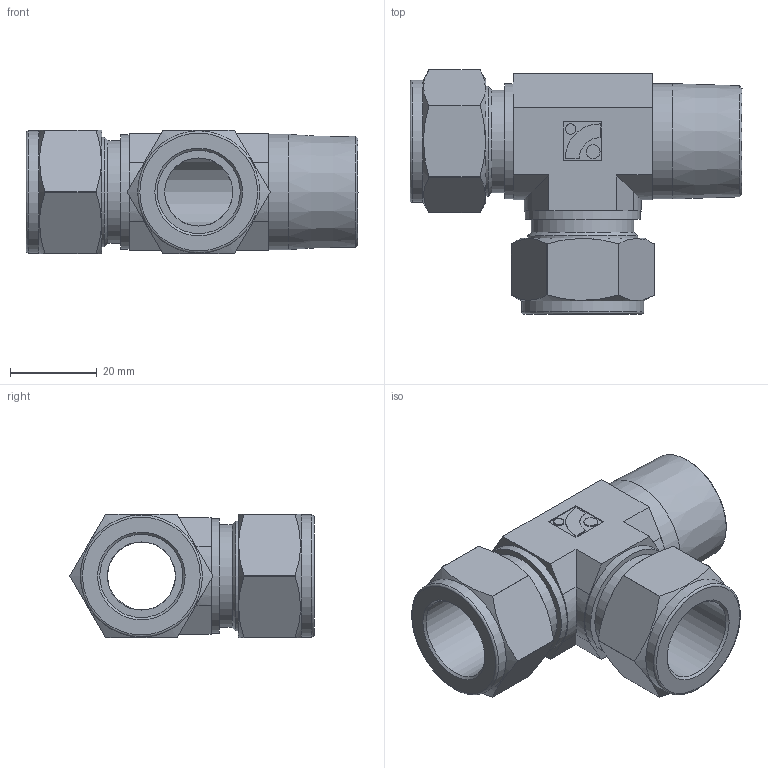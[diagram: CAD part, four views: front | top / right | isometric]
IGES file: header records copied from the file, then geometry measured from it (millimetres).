
Global section: file name: No Iges File Name specified; native system: Autodesk Inventor 2012; preprocessor: AutoDesk Inventor Iges Exporter R2012; author: 硅己绕,,1; organization: 1; date: 20150815.154856; units: millimetre
Bounding box: 76.69 x 56.39 x 28.6 mm (x, y, z)
Volume: 38135.9 mm3; surface area: 16707.9 mm2
Topology: 1 solids, 1 shells, 94 faces, 221 edges, 144 vertices
Faces by surface type: plane 48, cylinder 28, revolution 8, cone 8, torus 2
Full cylindrical faces by diameter (mm): 2.407 x1, 3.21 x1, 23.7 x2, 25.4 x2, 26.5 x2, 26.624 x1, 28.2 x2
